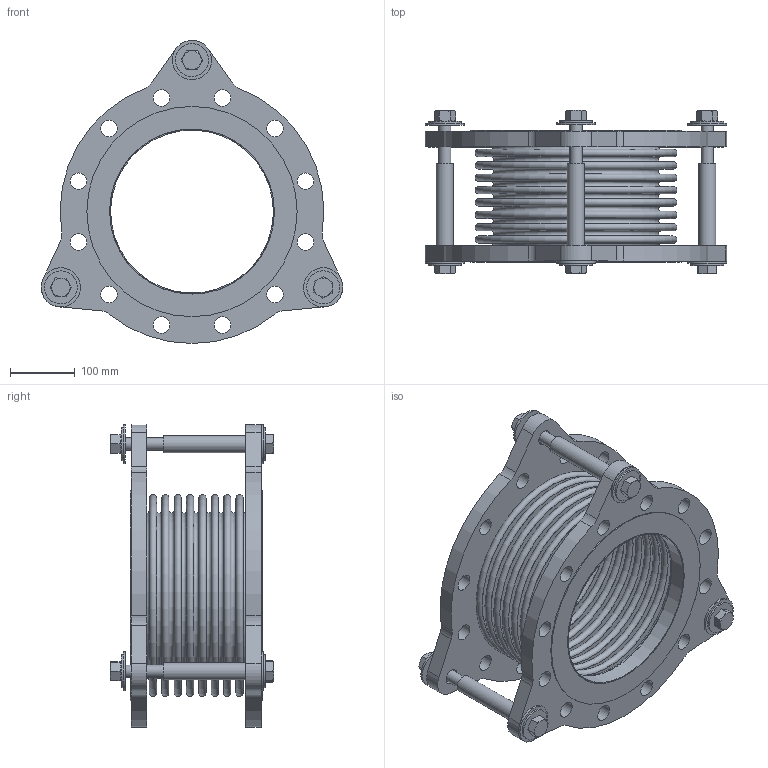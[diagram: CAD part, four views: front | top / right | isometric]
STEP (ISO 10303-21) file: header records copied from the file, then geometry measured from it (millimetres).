
FILE_DESCRIPTION(/* description */ (''),/* implementation_level */ '2;1');
FILE_NAME(/* name */ 'C:\001_Work\Designs\RFB\RFB-10x8.stp',/* time_stamp */ '2016-04-28T19:08:49-04:00',/* author */ ('rramoutar'),/* organization */ ('Mason Industries Inc.'),/* preprocessor_version */ 'ST-DEVELOPER v15.6',/* originating_system */ 'Autodesk Inventor 2015',/* authorisation */ '');
FILE_SCHEMA (('CONFIG_CONTROL_DESIGN'));
Length unit declared in the file: inch
Products named in the file (1): 10in_RFB_150FLANGE
Bounding box: 464.52 x 251.23 x 466.72 mm (x, y, z)
Volume: 5443030.4 mm3; surface area: 1737420.5 mm2
Topology: 24 solids, 24 shells, 325 faces, 695 edges, 455 vertices
Faces by surface type: plane 133, cylinder 98, cone 60, torus 34
Full cylindrical faces by diameter (mm): 16.307 x3, 19.05 x9, 20.637 x6, 20.93 x3, 23.812 x6, 25.4 x24, 26.67 x3, 50.8 x6, 60.325 x6, 250.825 x2, 254 x4, 323.85 x2
Entity records: 8435 total; most frequent: CARTESIAN_POINT 1500, DIRECTION 1406, ORIENTED_EDGE 1084, AXIS2_PLACEMENT_3D 646, EDGE_LOOP 578, EDGE_CURVE 542, VERTEX_POINT 416, STYLED_ITEM 349
